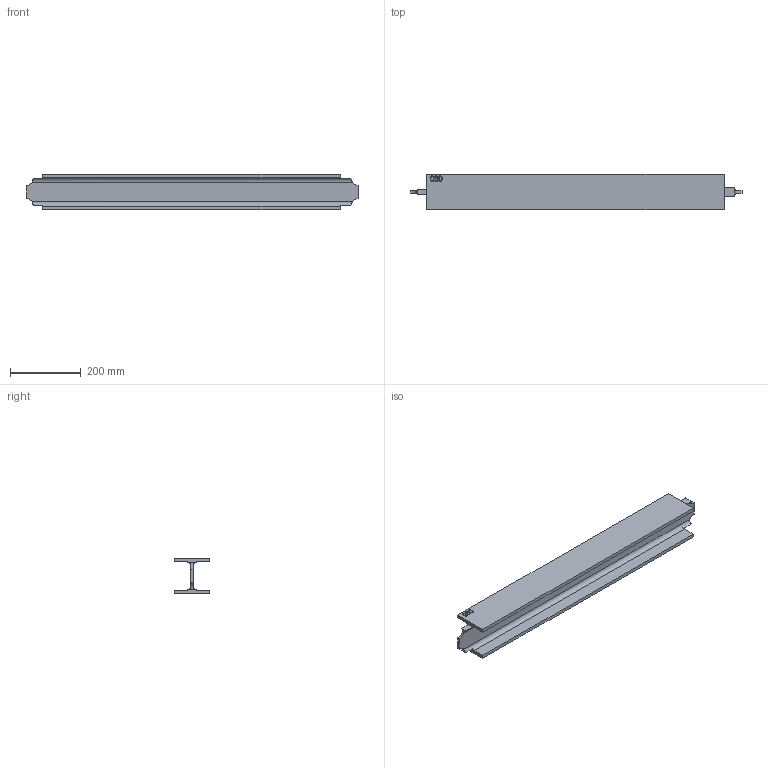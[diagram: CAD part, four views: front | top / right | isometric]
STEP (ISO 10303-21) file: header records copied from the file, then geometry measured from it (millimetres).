
FILE_DESCRIPTION (( 'STEP AP214' ), '1' );
FILE_NAME ('CCJ029-REP.030 - POUTRE INTERMEDIAIRE TRAVERSE TYPE 2.STEP', '2025-02-13T08:19:42', ( '' ), ( '' ), 'SwSTEP 2.0', 'SolidWorks 2021', '' );
FILE_SCHEMA (( 'AUTOMOTIVE_DESIGN' ));
Length unit declared in the file: millimetre
Products named in the file (1): CCJ029-REP.030 - POUTRE INTERMEDIAIRE TRAVERSE TYPE 2
Bounding box: 938.5 x 100 x 100 mm (x, y, z)
Volume: 2232328.5 mm3; surface area: 498375.3 mm2
Topology: 1 solids, 1 shells, 70 faces, 189 edges, 126 vertices
Faces by surface type: bspline 32, plane 30, cylinder 8
Entity records: 4483 total; most frequent: CARTESIAN_POINT 2906, ORIENTED_EDGE 378, DIRECTION 211, EDGE_CURVE 189, VERTEX_POINT 126, VECTOR 101, LINE 101, EDGE_LOOP 75
